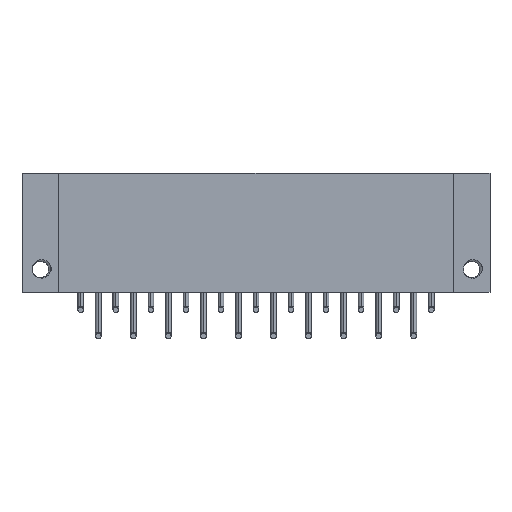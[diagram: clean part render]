
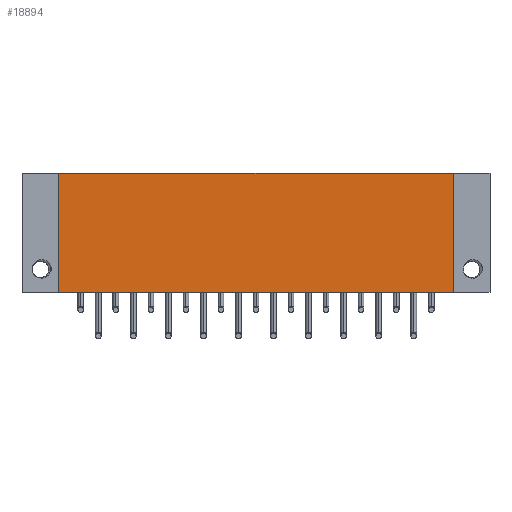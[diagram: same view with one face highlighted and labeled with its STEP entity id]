
A CAD part, front view. The second image highlights one B-rep face of the part: STEP entity #18894.
In plain terms, the highlighted planar face has unit normal (0, -1, 0).
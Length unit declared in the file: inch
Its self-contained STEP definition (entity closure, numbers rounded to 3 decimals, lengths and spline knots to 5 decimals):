
#253 = DIRECTION ( 'NONE',  ( 0., 0., -1. ) ) ;
#751 = PLANE ( 'NONE',  #32534 ) ;
#1197 = ORIENTED_EDGE ( 'NONE', *, *, #19312, .F. ) ;
#4896 = LINE ( 'NONE', #8208, #29079 ) ;
#7696 = CARTESIAN_POINT ( 'NONE',  ( 0.5625, -0.0625, 0. ) ) ;
#8208 = CARTESIAN_POINT ( 'NONE',  ( -0.5625, -0.0625, 0. ) ) ;
#11536 = DIRECTION ( 'NONE',  ( 0., 0., 1. ) ) ;
#11979 = DIRECTION ( 'NONE',  ( 1., 0., 0. ) ) ;
#12594 = VECTOR ( 'NONE', #34445, 39.37008 ) ;
#14317 = DIRECTION ( 'NONE',  ( 0., -1., 0. ) ) ;
#16353 = VERTEX_POINT ( 'NONE', #7696 ) ;
#17000 = FACE_OUTER_BOUND ( 'NONE', #18095, .T. ) ;
#18095 = EDGE_LOOP ( 'NONE', ( #24179, #36794, #21818, #1197 ) ) ;
#18413 = EDGE_CURVE ( 'NONE', #24109, #16353, #29007, .T. ) ;
#18894 = ADVANCED_FACE ( 'NONE', ( #17000 ), #751, .T. ) ;
#19312 = EDGE_CURVE ( 'NONE', #33927, #24109, #4896, .T. ) ;
#20298 = CARTESIAN_POINT ( 'NONE',  ( -0.6675, -0.0625, -0.34 ) ) ;
#20658 = CARTESIAN_POINT ( 'NONE',  ( -0.5625, -0.0625, -0.34 ) ) ;
#21818 = ORIENTED_EDGE ( 'NONE', *, *, #18413, .F. ) ;
#22602 = VECTOR ( 'NONE', #11979, 39.37008 ) ;
#22768 = VERTEX_POINT ( 'NONE', #42448 ) ;
#23206 = VECTOR ( 'NONE', #253, 39.37008 ) ;
#24109 = VERTEX_POINT ( 'NONE', #32796 ) ;
#24179 = ORIENTED_EDGE ( 'NONE', *, *, #33489, .T. ) ;
#26932 = LINE ( 'NONE', #34017, #12594 ) ;
#29007 = LINE ( 'NONE', #32113, #22602 ) ;
#29079 = VECTOR ( 'NONE', #11536, 39.37008 ) ;
#32113 = CARTESIAN_POINT ( 'NONE',  ( -0.6675, -0.0625, 0. ) ) ;
#32534 = AXIS2_PLACEMENT_3D ( 'NONE', #20298, #14317, #33789 ) ;
#32796 = CARTESIAN_POINT ( 'NONE',  ( -0.5625, -0.0625, 0. ) ) ;
#33070 = CARTESIAN_POINT ( 'NONE',  ( 0.5625, -0.0625, 0. ) ) ;
#33489 = EDGE_CURVE ( 'NONE', #33927, #22768, #26932, .T. ) ;
#33504 = LINE ( 'NONE', #33070, #23206 ) ;
#33789 = DIRECTION ( 'NONE',  ( 0., 0., -1. ) ) ;
#33927 = VERTEX_POINT ( 'NONE', #20658 ) ;
#34017 = CARTESIAN_POINT ( 'NONE',  ( -0.6675, -0.0625, -0.34 ) ) ;
#34445 = DIRECTION ( 'NONE',  ( 1., 0., 0. ) ) ;
#36794 = ORIENTED_EDGE ( 'NONE', *, *, #39723, .F. ) ;
#39723 = EDGE_CURVE ( 'NONE', #16353, #22768, #33504, .T. ) ;
#42448 = CARTESIAN_POINT ( 'NONE',  ( 0.5625, -0.0625, -0.34 ) ) ;
